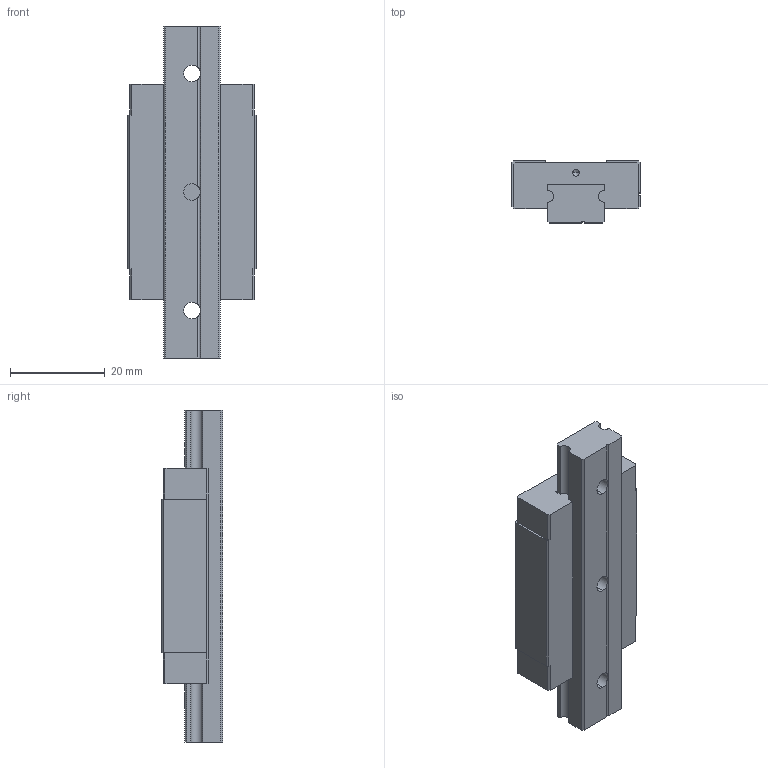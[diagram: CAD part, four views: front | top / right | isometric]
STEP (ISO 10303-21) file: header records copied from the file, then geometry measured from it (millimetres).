
FILE_DESCRIPTION((''),'2;1');
FILE_NAME('MGN12H_ASM','2008-07-11T',('minyao'),(''),'PRO/ENGINEER BY PARAMETRIC TECHNOLOGY CORPORATION, 2004360','PRO/ENGINEER BY PARAMETRIC TECHNOLOGY CORPORATION, 2004360','');
FILE_SCHEMA(('CONFIG_CONTROL_DESIGN'));
Length unit declared in the file: millimetre
Products named in the file (4): MANIFOLD_SOLID_BREP_91; MANIFOLD_SOLID_BREP_92; SAND94F7H92Y_ASM; MGN12H_ASM
Assembly tree (3 placements, depth 3):
  MGN12H_ASM
    SAND94F7H92Y_ASM
      MANIFOLD_SOLID_BREP_91
      MANIFOLD_SOLID_BREP_92
Bounding box: 27 x 13 x 70 mm (x, y, z)
Volume: 15131 mm3; surface area: 7948.5 mm2
Topology: 2 solids, 2 shells, 95 faces, 279 edges, 182 vertices
Faces by surface type: plane 53, cylinder 30, cone 12
Entity records: 3287 total; most frequent: CARTESIAN_POINT 616, DIRECTION 547, ORIENTED_EDGE 534, EDGE_CURVE 267, VECTOR 189, LINE 189, VERTEX_POINT 182, AXIS2_PLACEMENT_3D 179
